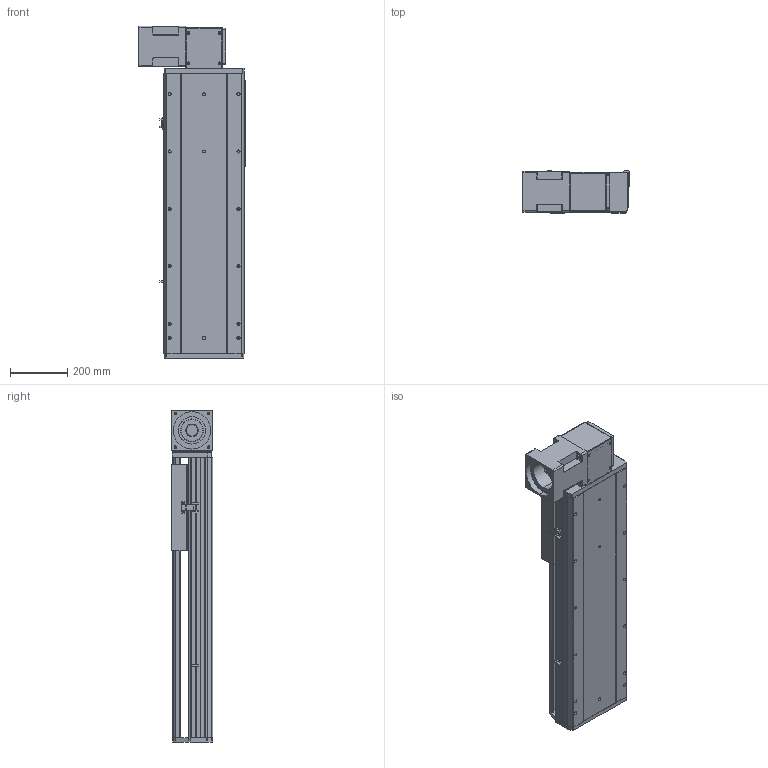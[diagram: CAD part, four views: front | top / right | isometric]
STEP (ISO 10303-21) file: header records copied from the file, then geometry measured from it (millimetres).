
FILE_DESCRIPTION (( 'STEP AP214' ), '1' );
FILE_NAME ('RTB28R-XX-550-BR-M100-XX-C4.STEP', '2025-12-22T01:07:55', ( '' ), ( '' ), 'SwSTEP 2.0', 'SolidWorks 2018', '' );
FILE_SCHEMA (( 'AUTOMOTIVE_DESIGN' ));
Length unit declared in the file: millimetre
Products named in the file (4): RTB28S-GY-011^RTB28R-XX-XX-BR-M100-XX-C4; RTB28R-XX-550-BR-M100-XX-C4; RTB28S-GY-004^RTB28R-XX-XX-BR-M100-XX-C4; RTB28S-GY-008^RTB28R-XX-XX-BR-M100-XX-C4
Assembly tree (3 placements, depth 2):
  RTB28R-XX-550-BR-M100-XX-C4
    RTB28S-GY-011^RTB28R-XX-XX-BR-M100-XX-C4
    RTB28S-GY-004^RTB28R-XX-XX-BR-M100-XX-C4
    RTB28S-GY-008^RTB28R-XX-XX-BR-M100-XX-C4
Bounding box: 370 x 145 x 1157 mm (x, y, z)
Volume: 22520521.4 mm3; surface area: 2223526.3 mm2
Topology: 3 solids, 4 shells, 968 faces, 2550 edges, 1636 vertices
Faces by surface type: plane 452, cylinder 345, bspline 87, cone 80, torus 4
Entity records: 41230 total; most frequent: CARTESIAN_POINT 10945, ORIENTED_EDGE 5036, DIRECTION 4866, EDGE_CURVE 2518, AXIS2_PLACEMENT_3D 1657, VERTEX_POINT 1636, VECTOR 1552, LINE 1552
